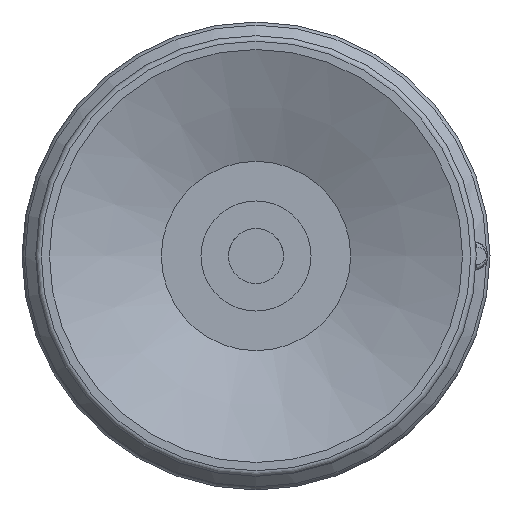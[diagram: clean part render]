
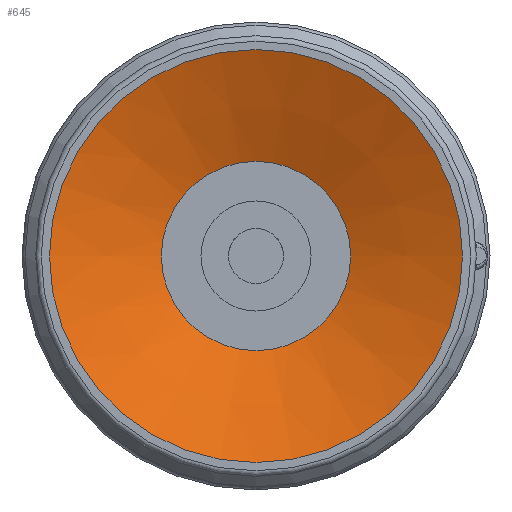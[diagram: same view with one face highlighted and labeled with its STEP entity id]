
A CAD part, front view. The second image highlights one B-rep face of the part: STEP entity #645.
In plain terms, the highlighted conical face has half-angle 67.5 degrees and reference radius 3.437 mm.
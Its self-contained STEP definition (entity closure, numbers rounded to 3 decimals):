
#645=ADVANCED_FACE('',(#927,#928),#929,.F.);
#927=FACE_BOUND('',#2259,.T.);
#928=FACE_OUTER_BOUND('',#2260,.T.);
#929=CONICAL_SURFACE('',#2261,3.437,1.178);
#2259=EDGE_LOOP('',(#3060));
#2260=EDGE_LOOP('',(#3061));
#2261=AXIS2_PLACEMENT_3D('',#3062,#3063,#3064);
#3060=ORIENTED_EDGE('',*,*,#3389,.F.);
#3061=ORIENTED_EDGE('',*,*,#3390,.T.);
#3062=CARTESIAN_POINT('',(0.0,0.0,1.683));
#3063=DIRECTION('',(0.0,0.,-1.0));
#3064=DIRECTION('',(0.0,1.0,0.));
#3389=EDGE_CURVE('',#3778,#3778,#3779,.T.);
#3390=EDGE_CURVE('',#3780,#3780,#3781,.T.);
#3778=VERTEX_POINT('',#4815);
#3779=CIRCLE('',#4816,3.437);
#3780=VERTEX_POINT('',#4817);
#3781=CIRCLE('',#4818,7.5);
#4815=CARTESIAN_POINT('',(-3.437,0.0,1.683));
#4816=AXIS2_PLACEMENT_3D('',#5135,#5136,#5137);
#4817=CARTESIAN_POINT('',(-7.5,0.0,0.));
#4818=AXIS2_PLACEMENT_3D('',#5138,#5139,#5140);
#5135=CARTESIAN_POINT('',(0.0,0.0,1.683));
#5136=DIRECTION('',(0.0,0.,-1.0));
#5137=DIRECTION('',(0.0,1.0,0.));
#5138=CARTESIAN_POINT('',(0.0,0.0,0.));
#5139=DIRECTION('',(0.0,0.,-1.0));
#5140=DIRECTION('',(0.0,1.0,0.));
